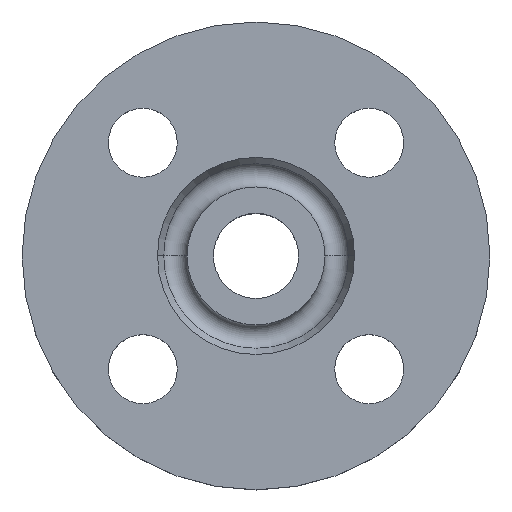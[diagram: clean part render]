
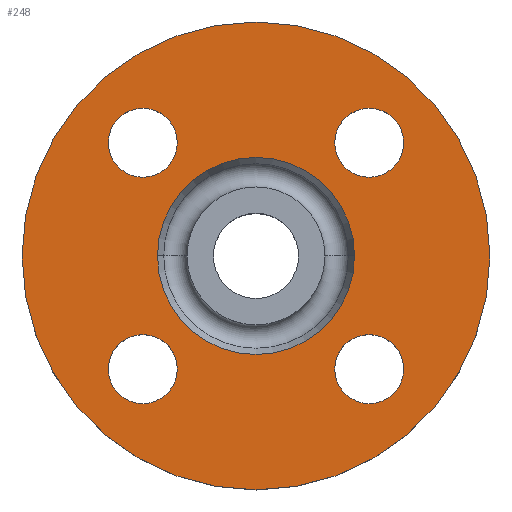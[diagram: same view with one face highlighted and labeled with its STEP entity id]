
A CAD part, top view. The second image highlights one B-rep face of the part: STEP entity #248.
In plain terms, the highlighted planar face has unit normal (0, 0, 1).
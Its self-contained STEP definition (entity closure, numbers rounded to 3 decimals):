
#11 = EDGE_CURVE ( 'NONE', #775, #783, #161, .T. ) ;
#65 = CARTESIAN_POINT ( 'NONE',  ( 20., 0., -2. ) ) ;
#77 = CARTESIAN_POINT ( 'NONE',  ( 15.981, -22.981, -2. ) ) ;
#86 = EDGE_CURVE ( 'NONE', #604, #607, #410, .T. ) ;
#89 = EDGE_CURVE ( 'NONE', #603, #822, #390, .T. ) ;
#91 = AXIS2_PLACEMENT_3D ( 'NONE', #474, #684, #916 ) ;
#100 = CARTESIAN_POINT ( 'NONE',  ( 29.981, 22.981, -2. ) ) ;
#105 = DIRECTION ( 'NONE',  ( -1., 0., 0. ) ) ;
#117 = CARTESIAN_POINT ( 'NONE',  ( 15.981, 22.981, -2. ) ) ;
#119 = DIRECTION ( 'NONE',  ( 0., 0., -1. ) ) ;
#148 = CARTESIAN_POINT ( 'NONE',  ( 0., 0., -2. ) ) ;
#159 = EDGE_CURVE ( 'NONE', #783, #775, #568, .T. ) ;
#161 = CIRCLE ( 'NONE', #407, 7. ) ;
#173 = AXIS2_PLACEMENT_3D ( 'NONE', #530, #532, #537 ) ;
#202 = CARTESIAN_POINT ( 'NONE',  ( -47.5, 0., -2. ) ) ;
#209 = CARTESIAN_POINT ( 'NONE',  ( -20., 0., -2. ) ) ;
#214 = DIRECTION ( 'NONE',  ( -1., 0., 0. ) ) ;
#215 = DIRECTION ( 'NONE',  ( 0., 0., -1. ) ) ;
#216 = CARTESIAN_POINT ( 'NONE',  ( 0., 0., -2. ) ) ;
#221 = DIRECTION ( 'NONE',  ( 1., 0., 0. ) ) ;
#225 = CARTESIAN_POINT ( 'NONE',  ( -15.981, -22.981, -2. ) ) ;
#238 = CARTESIAN_POINT ( 'NONE',  ( -29.981, 22.981, -2. ) ) ;
#240 = CARTESIAN_POINT ( 'NONE',  ( -15.981, 22.981, -2. ) ) ;
#241 = CARTESIAN_POINT ( 'NONE',  ( 29.981, -22.981, -2. ) ) ;
#246 = AXIS2_PLACEMENT_3D ( 'NONE', #901, #902, #903 ) ;
#248 = ADVANCED_FACE ( 'NONE', ( #363, #361, #411, #412, #413, #415 ), #417, .T. ) ;
#258 = CIRCLE ( 'NONE', #528, 20. ) ;
#262 = CARTESIAN_POINT ( 'NONE',  ( -29.981, -22.981, -2. ) ) ;
#269 = CARTESIAN_POINT ( 'NONE',  ( 47.5, 0., -2. ) ) ;
#274 = CIRCLE ( 'NONE', #280, 20. ) ;
#279 = CIRCLE ( 'NONE', #91, 7. ) ;
#280 = AXIS2_PLACEMENT_3D ( 'NONE', #549, #550, #552 ) ;
#301 = CIRCLE ( 'NONE', #305, 47.5 ) ;
#305 = AXIS2_PLACEMENT_3D ( 'NONE', #335, #362, #332 ) ;
#307 = AXIS2_PLACEMENT_3D ( 'NONE', #418, #419, #423 ) ;
#309 = CARTESIAN_POINT ( 'NONE',  ( -22.981, -22.981, -2. ) ) ;
#329 = DIRECTION ( 'NONE',  ( 0., 0., -1. ) ) ;
#332 = DIRECTION ( 'NONE',  ( -1., 0., 0. ) ) ;
#335 = CARTESIAN_POINT ( 'NONE',  ( 0., 0., -2. ) ) ;
#350 = EDGE_CURVE ( 'NONE', #822, #603, #421, .T. ) ;
#361 = FACE_BOUND ( 'NONE', #805, .T. ) ;
#362 = DIRECTION ( 'NONE',  ( 0., 0., -1. ) ) ;
#363 = FACE_BOUND ( 'NONE', #842, .T. ) ;
#369 = AXIS2_PLACEMENT_3D ( 'NONE', #475, #479, #480 ) ;
#387 = AXIS2_PLACEMENT_3D ( 'NONE', #881, #882, #885 ) ;
#388 = EDGE_CURVE ( 'NONE', #607, #604, #398, .T. ) ;
#390 = CIRCLE ( 'NONE', #387, 7. ) ;
#396 = EDGE_CURVE ( 'NONE', #837, #700, #274, .T. ) ;
#398 = CIRCLE ( 'NONE', #173, 7. ) ;
#404 = CIRCLE ( 'NONE', #492, 7. ) ;
#407 = AXIS2_PLACEMENT_3D ( 'NONE', #855, #856, #857 ) ;
#409 = AXIS2_PLACEMENT_3D ( 'NONE', #877, #878, #880 ) ;
#410 = CIRCLE ( 'NONE', #409, 7. ) ;
#411 = FACE_BOUND ( 'NONE', #582, .T. ) ;
#412 = FACE_BOUND ( 'NONE', #580, .T. ) ;
#413 = FACE_BOUND ( 'NONE', #844, .T. ) ;
#415 = FACE_OUTER_BOUND ( 'NONE', #695, .T. ) ;
#417 = PLANE ( 'NONE',  #307 ) ;
#418 = CARTESIAN_POINT ( 'NONE',  ( 47.5, 0., -2. ) ) ;
#419 = DIRECTION ( 'NONE',  ( 0., 0., 1. ) ) ;
#421 = CIRCLE ( 'NONE', #369, 7. ) ;
#423 = DIRECTION ( 'NONE',  ( 1., 0., 0. ) ) ;
#428 = EDGE_CURVE ( 'NONE', #727, #592, #301, .T. ) ;
#444 = AXIS2_PLACEMENT_3D ( 'NONE', #216, #215, #214 ) ;
#474 = CARTESIAN_POINT ( 'NONE',  ( -22.981, -22.981, -2. ) ) ;
#475 = CARTESIAN_POINT ( 'NONE',  ( 22.981, -22.981, -2. ) ) ;
#479 = DIRECTION ( 'NONE',  ( 0., 0., -1. ) ) ;
#480 = DIRECTION ( 'NONE',  ( 1., 0., 0. ) ) ;
#492 = AXIS2_PLACEMENT_3D ( 'NONE', #309, #329, #221 ) ;
#518 = EDGE_CURVE ( 'NONE', #599, #633, #404, .T. ) ;
#528 = AXIS2_PLACEMENT_3D ( 'NONE', #148, #119, #105 ) ;
#530 = CARTESIAN_POINT ( 'NONE',  ( -22.981, 22.981, -2. ) ) ;
#532 = DIRECTION ( 'NONE',  ( 0., 0., -1. ) ) ;
#537 = DIRECTION ( 'NONE',  ( 1., 0., 0. ) ) ;
#544 = CIRCLE ( 'NONE', #444, 47.5 ) ;
#549 = CARTESIAN_POINT ( 'NONE',  ( 0., 0., -2. ) ) ;
#550 = DIRECTION ( 'NONE',  ( 0., 0., -1. ) ) ;
#552 = DIRECTION ( 'NONE',  ( -1., 0., 0. ) ) ;
#568 = CIRCLE ( 'NONE', #246, 7. ) ;
#580 = EDGE_LOOP ( 'NONE', ( #707, #708 ) ) ;
#582 = EDGE_LOOP ( 'NONE', ( #704, #705 ) ) ;
#592 = VERTEX_POINT ( 'NONE', #269 ) ;
#599 = VERTEX_POINT ( 'NONE', #262 ) ;
#603 = VERTEX_POINT ( 'NONE', #241 ) ;
#604 = VERTEX_POINT ( 'NONE', #240 ) ;
#607 = VERTEX_POINT ( 'NONE', #238 ) ;
#633 = VERTEX_POINT ( 'NONE', #225 ) ;
#652 = EDGE_CURVE ( 'NONE', #592, #727, #544, .T. ) ;
#684 = DIRECTION ( 'NONE',  ( 0., 0., -1. ) ) ;
#695 = EDGE_LOOP ( 'NONE', ( #711, #715 ) ) ;
#699 = ORIENTED_EDGE ( 'NONE', *, *, #89, .T. ) ;
#700 = VERTEX_POINT ( 'NONE', #209 ) ;
#701 = ORIENTED_EDGE ( 'NONE', *, *, #350, .T. ) ;
#702 = ORIENTED_EDGE ( 'NONE', *, *, #906, .T. ) ;
#703 = ORIENTED_EDGE ( 'NONE', *, *, #518, .T. ) ;
#704 = ORIENTED_EDGE ( 'NONE', *, *, #86, .T. ) ;
#705 = ORIENTED_EDGE ( 'NONE', *, *, #388, .T. ) ;
#707 = ORIENTED_EDGE ( 'NONE', *, *, #159, .T. ) ;
#708 = ORIENTED_EDGE ( 'NONE', *, *, #11, .T. ) ;
#709 = ORIENTED_EDGE ( 'NONE', *, *, #396, .T. ) ;
#710 = ORIENTED_EDGE ( 'NONE', *, *, #776, .T. ) ;
#711 = ORIENTED_EDGE ( 'NONE', *, *, #652, .F. ) ;
#715 = ORIENTED_EDGE ( 'NONE', *, *, #428, .F. ) ;
#727 = VERTEX_POINT ( 'NONE', #202 ) ;
#775 = VERTEX_POINT ( 'NONE', #117 ) ;
#776 = EDGE_CURVE ( 'NONE', #700, #837, #258, .T. ) ;
#783 = VERTEX_POINT ( 'NONE', #100 ) ;
#805 = EDGE_LOOP ( 'NONE', ( #702, #703 ) ) ;
#822 = VERTEX_POINT ( 'NONE', #77 ) ;
#837 = VERTEX_POINT ( 'NONE', #65 ) ;
#842 = EDGE_LOOP ( 'NONE', ( #699, #701 ) ) ;
#844 = EDGE_LOOP ( 'NONE', ( #709, #710 ) ) ;
#855 = CARTESIAN_POINT ( 'NONE',  ( 22.981, 22.981, -2. ) ) ;
#856 = DIRECTION ( 'NONE',  ( 0., 0., -1. ) ) ;
#857 = DIRECTION ( 'NONE',  ( 1., 0., 0. ) ) ;
#877 = CARTESIAN_POINT ( 'NONE',  ( -22.981, 22.981, -2. ) ) ;
#878 = DIRECTION ( 'NONE',  ( 0., 0., -1. ) ) ;
#880 = DIRECTION ( 'NONE',  ( 1., 0., 0. ) ) ;
#881 = CARTESIAN_POINT ( 'NONE',  ( 22.981, -22.981, -2. ) ) ;
#882 = DIRECTION ( 'NONE',  ( 0., 0., -1. ) ) ;
#885 = DIRECTION ( 'NONE',  ( 1., 0., 0. ) ) ;
#901 = CARTESIAN_POINT ( 'NONE',  ( 22.981, 22.981, -2. ) ) ;
#902 = DIRECTION ( 'NONE',  ( 0., 0., -1. ) ) ;
#903 = DIRECTION ( 'NONE',  ( 1., 0., 0. ) ) ;
#906 = EDGE_CURVE ( 'NONE', #633, #599, #279, .T. ) ;
#916 = DIRECTION ( 'NONE',  ( 1., 0., 0. ) ) ;
